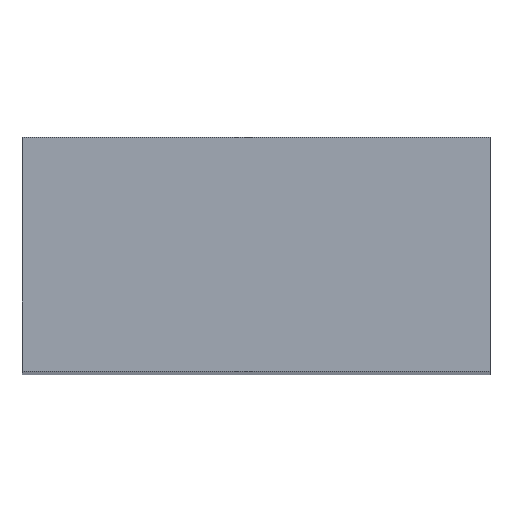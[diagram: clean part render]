
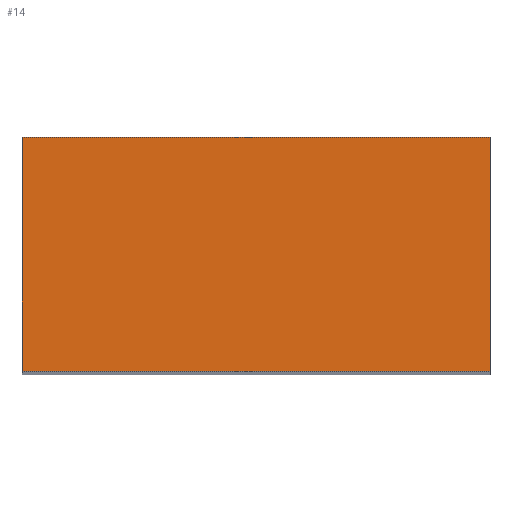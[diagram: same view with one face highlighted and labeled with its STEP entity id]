
A CAD part, top view. The second image highlights one B-rep face of the part: STEP entity #14.
In plain terms, the highlighted planar face has unit normal (0, 0, 1).
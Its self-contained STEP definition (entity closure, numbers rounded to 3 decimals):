
#1 = VERTEX_POINT ( 'NONE', #68 ) ;
#14 = ADVANCED_FACE ( 'NONE', ( #221 ), #258, .F. ) ;
#40 = VERTEX_POINT ( 'NONE', #397 ) ;
#47 = EDGE_CURVE ( 'NONE', #1, #349, #218, .T. ) ;
#48 = DIRECTION ( 'NONE',  ( 0., -1., 0. ) ) ;
#50 = CARTESIAN_POINT ( 'NONE',  ( -24., 24., 100. ) ) ;
#57 = CARTESIAN_POINT ( 'NONE',  ( -24., 24., 100. ) ) ;
#58 = ORIENTED_EDGE ( 'NONE', *, *, #214, .F. ) ;
#63 = VECTOR ( 'NONE', #372, 1000. ) ;
#68 = CARTESIAN_POINT ( 'NONE',  ( -24., 24., 100. ) ) ;
#104 = LINE ( 'NONE', #419, #369 ) ;
#131 = EDGE_LOOP ( 'NONE', ( #345, #436, #58, #170 ) ) ;
#170 = ORIENTED_EDGE ( 'NONE', *, *, #47, .T. ) ;
#172 = CARTESIAN_POINT ( 'NONE',  ( -24., 0., 100. ) ) ;
#214 = EDGE_CURVE ( 'NONE', #1, #40, #265, .T. ) ;
#218 = LINE ( 'NONE', #360, #284 ) ;
#221 = FACE_OUTER_BOUND ( 'NONE', #131, .T. ) ;
#225 = CARTESIAN_POINT ( 'NONE',  ( 24., 24., 100. ) ) ;
#229 = DIRECTION ( 'NONE',  ( 1., 0., 0. ) ) ;
#230 = EDGE_CURVE ( 'NONE', #40, #429, #378, .T. ) ;
#258 = PLANE ( 'NONE',  #437 ) ;
#259 = VECTOR ( 'NONE', #229, 1000. ) ;
#265 = LINE ( 'NONE', #57, #259 ) ;
#284 = VECTOR ( 'NONE', #48, 1000. ) ;
#290 = DIRECTION ( 'NONE',  ( 0., 0., -1. ) ) ;
#318 = DIRECTION ( 'NONE',  ( 1., 0., 0. ) ) ;
#327 = DIRECTION ( 'NONE',  ( -1., 0., 0. ) ) ;
#345 = ORIENTED_EDGE ( 'NONE', *, *, #348, .T. ) ;
#346 = CARTESIAN_POINT ( 'NONE',  ( 24., 0., 100. ) ) ;
#348 = EDGE_CURVE ( 'NONE', #349, #429, #104, .T. ) ;
#349 = VERTEX_POINT ( 'NONE', #172 ) ;
#360 = CARTESIAN_POINT ( 'NONE',  ( -24., 24., 100. ) ) ;
#369 = VECTOR ( 'NONE', #318, 1000. ) ;
#372 = DIRECTION ( 'NONE',  ( 0., -1., 0. ) ) ;
#378 = LINE ( 'NONE', #225, #63 ) ;
#397 = CARTESIAN_POINT ( 'NONE',  ( 24., 24., 100. ) ) ;
#419 = CARTESIAN_POINT ( 'NONE',  ( -24., 0., 100. ) ) ;
#429 = VERTEX_POINT ( 'NONE', #346 ) ;
#436 = ORIENTED_EDGE ( 'NONE', *, *, #230, .F. ) ;
#437 = AXIS2_PLACEMENT_3D ( 'NONE', #50, #290, #327 ) ;
